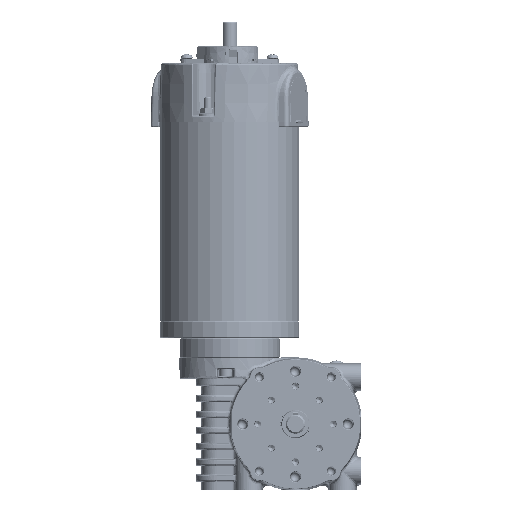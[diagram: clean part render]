
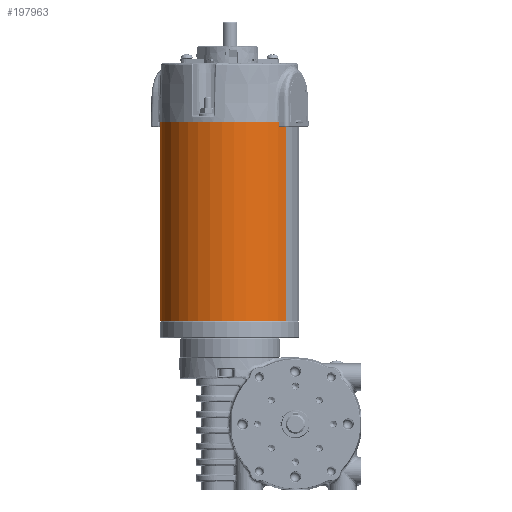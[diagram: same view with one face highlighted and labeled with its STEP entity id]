
A CAD part, left-side view. The second image highlights one B-rep face of the part: STEP entity #197963.
In plain terms, the highlighted cylindrical face has radius 37.15 mm (diameter 74.3 mm), a partial arc.
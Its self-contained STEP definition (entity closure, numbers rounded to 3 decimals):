
#33995 = DIRECTION ( 'NONE',  ( 0., 0., -1. ) ) ;
#35095 = LINE ( 'NONE', #92767, #119498 ) ;
#41028 = VERTEX_POINT ( 'NONE', #73936 ) ;
#51880 = EDGE_CURVE ( 'NONE', #293333, #167122, #183938, .T. ) ;
#57162 = AXIS2_PLACEMENT_3D ( 'NONE', #280760, #33995, #143887 ) ;
#62784 = CARTESIAN_POINT ( 'NONE',  ( 27.455, 44.51, 50.358 ) ) ;
#73936 = CARTESIAN_POINT ( 'NONE',  ( -16.926, -15.079, 156.358 ) ) ;
#76006 = DIRECTION ( 'NONE',  ( 0., 0., 1. ) ) ;
#79230 = EDGE_CURVE ( 'NONE', #167122, #136981, #99305, .T. ) ;
#88540 = DIRECTION ( 'NONE',  ( 0.597, 0.802, 0. ) ) ;
#92767 = CARTESIAN_POINT ( 'NONE',  ( -16.926, -15.079, 50.358 ) ) ;
#97511 = CARTESIAN_POINT ( 'NONE',  ( 27.455, 44.51, 50.358 ) ) ;
#99305 = LINE ( 'NONE', #97511, #332603 ) ;
#104791 = FACE_OUTER_BOUND ( 'NONE', #147522, .T. ) ;
#119498 = VECTOR ( 'NONE', #334227, 1000. ) ;
#128403 = CARTESIAN_POINT ( 'NONE',  ( -16.926, -15.079, 50.358 ) ) ;
#129992 = CYLINDRICAL_SURFACE ( 'NONE', #150997, 37.15 ) ;
#136981 = VERTEX_POINT ( 'NONE', #235575 ) ;
#137671 = ORIENTED_EDGE ( 'NONE', *, *, #51880, .F. ) ;
#143815 = AXIS2_PLACEMENT_3D ( 'NONE', #308187, #281212, #88540 ) ;
#143830 = ORIENTED_EDGE ( 'NONE', *, *, #79230, .F. ) ;
#143887 = DIRECTION ( 'NONE',  ( 0.597, 0.802, 0. ) ) ;
#147522 = EDGE_LOOP ( 'NONE', ( #143830, #137671, #202625, #254465 ) ) ;
#150997 = AXIS2_PLACEMENT_3D ( 'NONE', #297517, #76006, #320989 ) ;
#167122 = VERTEX_POINT ( 'NONE', #62784 ) ;
#181878 = DIRECTION ( 'NONE',  ( 0., 0., 1. ) ) ;
#183938 = CIRCLE ( 'NONE', #143815, 37.15 ) ;
#197963 = ADVANCED_FACE ( 'NONE', ( #104791 ), #129992, .T. ) ;
#202625 = ORIENTED_EDGE ( 'NONE', *, *, #329168, .T. ) ;
#235575 = CARTESIAN_POINT ( 'NONE',  ( 27.455, 44.51, 156.358 ) ) ;
#254465 = ORIENTED_EDGE ( 'NONE', *, *, #344261, .T. ) ;
#280760 = CARTESIAN_POINT ( 'NONE',  ( 5.264, 14.716, 156.358 ) ) ;
#281212 = DIRECTION ( 'NONE',  ( 0., 0., -1. ) ) ;
#293333 = VERTEX_POINT ( 'NONE', #128403 ) ;
#297517 = CARTESIAN_POINT ( 'NONE',  ( 5.264, 14.716, 50.358 ) ) ;
#308187 = CARTESIAN_POINT ( 'NONE',  ( 5.264, 14.716, 50.358 ) ) ;
#320989 = DIRECTION ( 'NONE',  ( -0.597, -0.802, 0. ) ) ;
#329168 = EDGE_CURVE ( 'NONE', #293333, #41028, #35095, .T. ) ;
#332603 = VECTOR ( 'NONE', #181878, 1000. ) ;
#334227 = DIRECTION ( 'NONE',  ( 0., 0., 1. ) ) ;
#339276 = CIRCLE ( 'NONE', #57162, 37.15 ) ;
#344261 = EDGE_CURVE ( 'NONE', #41028, #136981, #339276, .T. ) ;
